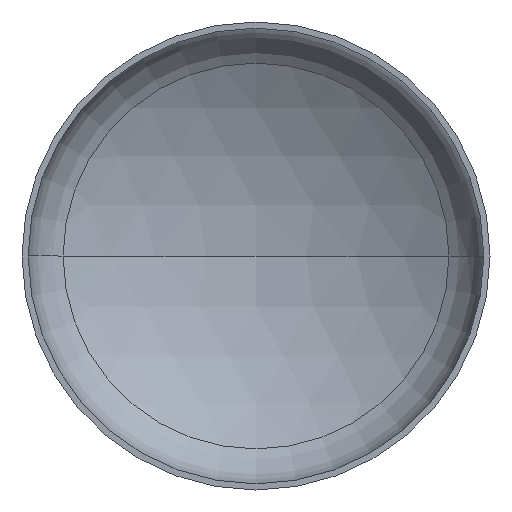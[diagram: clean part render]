
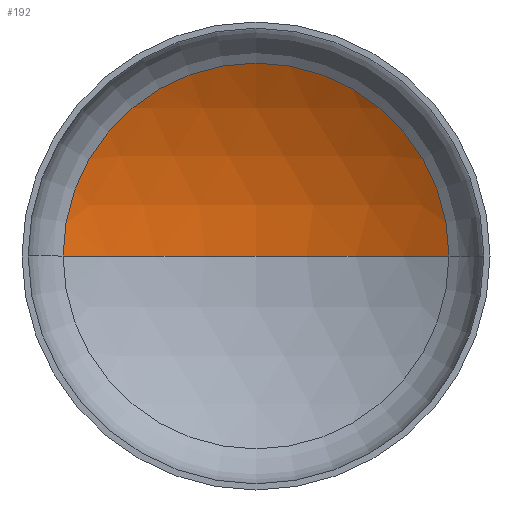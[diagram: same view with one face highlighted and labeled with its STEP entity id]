
A CAD part, front view. The second image highlights one B-rep face of the part: STEP entity #192.
In plain terms, the highlighted spherical face has radius 6400 mm.
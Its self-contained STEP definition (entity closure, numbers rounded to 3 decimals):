
#6 = ORIENTED_EDGE ( 'NONE', *, *, #150, .T. ) ;
#20 = ORIENTED_EDGE ( 'NONE', *, *, #151, .F. ) ;
#60 = CIRCLE ( 'NONE', #100, 6400. ) ;
#68 = AXIS2_PLACEMENT_3D ( 'NONE', #274, #221, #244 ) ;
#75 = VERTEX_POINT ( 'NONE', #287 ) ;
#77 = VERTEX_POINT ( 'NONE', #282 ) ;
#89 = AXIS2_PLACEMENT_3D ( 'NONE', #149, #147, #229 ) ;
#100 = AXIS2_PLACEMENT_3D ( 'NONE', #186, #194, #198 ) ;
#103 = VERTEX_POINT ( 'NONE', #234 ) ;
#105 = AXIS2_PLACEMENT_3D ( 'NONE', #224, #225, #218 ) ;
#119 = EDGE_LOOP ( 'NONE', ( #20, #6, #121 ) ) ;
#121 = ORIENTED_EDGE ( 'NONE', *, *, #146, .T. ) ;
#146 = EDGE_CURVE ( 'NONE', #103, #75, #197, .T. ) ;
#147 = DIRECTION ( 'NONE',  ( 0., 0., 1. ) ) ;
#149 = CARTESIAN_POINT ( 'NONE',  ( 0., -4355.802, 0. ) ) ;
#150 = EDGE_CURVE ( 'NONE', #77, #103, #60, .T. ) ;
#151 = EDGE_CURVE ( 'NONE', #77, #75, #367, .T. ) ;
#185 = FACE_OUTER_BOUND ( 'NONE', #119, .T. ) ;
#186 = CARTESIAN_POINT ( 'NONE',  ( 0., -4355.802, 0. ) ) ;
#192 = ADVANCED_FACE ( 'NONE', ( #185 ), #358, .F. ) ;
#194 = DIRECTION ( 'NONE',  ( 0., 0., -1. ) ) ;
#197 = CIRCLE ( 'NONE', #105, 3297.795 ) ;
#198 = DIRECTION ( 'NONE',  ( -1., 0., 0. ) ) ;
#218 = DIRECTION ( 'NONE',  ( 1., 0., 0. ) ) ;
#221 = DIRECTION ( 'NONE',  ( 0., 0., -1. ) ) ;
#224 = CARTESIAN_POINT ( 'NONE',  ( 0., 1129.137, 0. ) ) ;
#225 = DIRECTION ( 'NONE',  ( 0., -1., 0. ) ) ;
#229 = DIRECTION ( 'NONE',  ( 1., 0., 0. ) ) ;
#234 = CARTESIAN_POINT ( 'NONE',  ( 3297.795, 1129.137, 0. ) ) ;
#244 = DIRECTION ( 'NONE',  ( -1., 0., 0. ) ) ;
#274 = CARTESIAN_POINT ( 'NONE',  ( 0., -4355.802, 0. ) ) ;
#282 = CARTESIAN_POINT ( 'NONE',  ( 0., 2044.198, 0. ) ) ;
#287 = CARTESIAN_POINT ( 'NONE',  ( -3297.795, 1129.137, 0. ) ) ;
#358 = SPHERICAL_SURFACE ( 'NONE', #68, 6400. ) ;
#367 = CIRCLE ( 'NONE', #89, 6400. ) ;
